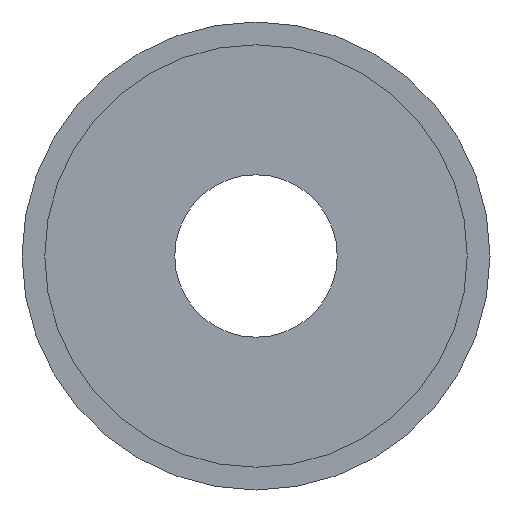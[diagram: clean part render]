
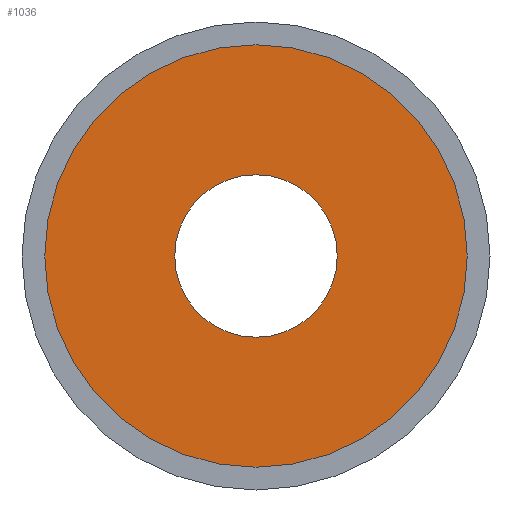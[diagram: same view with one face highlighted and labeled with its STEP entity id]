
A CAD part, front view. The second image highlights one B-rep face of the part: STEP entity #1036.
In plain terms, the highlighted planar face has unit normal (0, -1, 0).
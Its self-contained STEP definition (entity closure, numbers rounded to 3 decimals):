
#1 = FACE_BOUND ( 'NONE', #979, .T. ) ;
#191 = CARTESIAN_POINT ( 'NONE',  ( 0., -15., 32.5 ) ) ;
#214 = VERTEX_POINT ( 'NONE', #191 ) ;
#217 = DIRECTION ( 'NONE',  ( 0., -1., 0. ) ) ;
#243 = EDGE_LOOP ( 'NONE', ( #2054, #1466 ) ) ;
#254 = EDGE_CURVE ( 'NONE', #214, #1890, #451, .T. ) ;
#361 = EDGE_CURVE ( 'NONE', #1890, #214, #660, .T. ) ;
#406 = CIRCLE ( 'NONE', #1192, 12.5 ) ;
#412 = DIRECTION ( 'NONE',  ( 0., 0., -1. ) ) ;
#451 = CIRCLE ( 'NONE', #2138, 32.5 ) ;
#462 = ORIENTED_EDGE ( 'NONE', *, *, #2284, .F. ) ;
#586 = AXIS2_PLACEMENT_3D ( 'NONE', #2074, #1310, #2081 ) ;
#660 = CIRCLE ( 'NONE', #935, 32.5 ) ;
#746 = EDGE_CURVE ( 'NONE', #1850, #1987, #2042, .T. ) ;
#772 = DIRECTION ( 'NONE',  ( 0., 0., -1. ) ) ;
#807 = DIRECTION ( 'NONE',  ( 0., -1., 0. ) ) ;
#881 = PLANE ( 'NONE',  #1008 ) ;
#935 = AXIS2_PLACEMENT_3D ( 'NONE', #1567, #807, #412 ) ;
#979 = EDGE_LOOP ( 'NONE', ( #462, #2026 ) ) ;
#1008 = AXIS2_PLACEMENT_3D ( 'NONE', #1427, #2030, #2206 ) ;
#1011 = CARTESIAN_POINT ( 'NONE',  ( 0., -15., 0. ) ) ;
#1036 = ADVANCED_FACE ( 'NONE', ( #1, #1174 ), #881, .F. ) ;
#1163 = CARTESIAN_POINT ( 'NONE',  ( 0., -15., 12.5 ) ) ;
#1174 = FACE_OUTER_BOUND ( 'NONE', #243, .T. ) ;
#1192 = AXIS2_PLACEMENT_3D ( 'NONE', #1011, #217, #1774 ) ;
#1310 = DIRECTION ( 'NONE',  ( 0., -1., 0. ) ) ;
#1427 = CARTESIAN_POINT ( 'NONE',  ( 0., -15., 12.5 ) ) ;
#1453 = CARTESIAN_POINT ( 'NONE',  ( 0., -15., -12.5 ) ) ;
#1466 = ORIENTED_EDGE ( 'NONE', *, *, #254, .T. ) ;
#1567 = CARTESIAN_POINT ( 'NONE',  ( 0., -15., 0. ) ) ;
#1594 = CARTESIAN_POINT ( 'NONE',  ( 0., -15., -32.5 ) ) ;
#1774 = DIRECTION ( 'NONE',  ( 0., 0., -1. ) ) ;
#1850 = VERTEX_POINT ( 'NONE', #1163 ) ;
#1890 = VERTEX_POINT ( 'NONE', #1594 ) ;
#1923 = DIRECTION ( 'NONE',  ( 0., -1., 0. ) ) ;
#1987 = VERTEX_POINT ( 'NONE', #1453 ) ;
#2026 = ORIENTED_EDGE ( 'NONE', *, *, #746, .F. ) ;
#2030 = DIRECTION ( 'NONE',  ( 0., 1., 0. ) ) ;
#2042 = CIRCLE ( 'NONE', #586, 12.5 ) ;
#2054 = ORIENTED_EDGE ( 'NONE', *, *, #361, .T. ) ;
#2074 = CARTESIAN_POINT ( 'NONE',  ( 0., -15., 0. ) ) ;
#2081 = DIRECTION ( 'NONE',  ( 0., 0., -1. ) ) ;
#2138 = AXIS2_PLACEMENT_3D ( 'NONE', #2479, #1923, #772 ) ;
#2206 = DIRECTION ( 'NONE',  ( 0., 0., 1. ) ) ;
#2284 = EDGE_CURVE ( 'NONE', #1987, #1850, #406, .T. ) ;
#2479 = CARTESIAN_POINT ( 'NONE',  ( 0., -15., 0. ) ) ;
